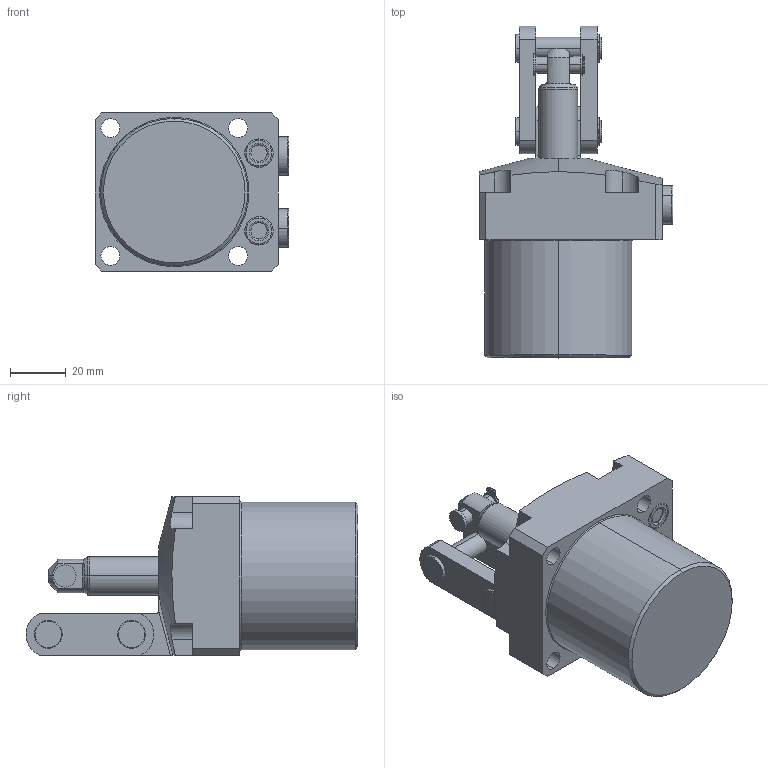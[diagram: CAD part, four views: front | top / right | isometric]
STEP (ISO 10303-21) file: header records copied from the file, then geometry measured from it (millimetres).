
FILE_DESCRIPTION(/* description */ (''),/* implementation_level */ '2;1');
FILE_NAME(/* name */ 'TPC06-R.stp',/* time_stamp */ '2025-01-05T10:30:10+08:00',/* author */ (''),/* organization */ (''),/* preprocessor_version */ 'ST-DEVELOPER v16.7',/* originating_system */ 'SIEMENS PLM Software NX 12.0',/* authorisation */ '');
FILE_SCHEMA (('AUTOMOTIVE_DESIGN { 1 0 10303 214 3 1 1 1 }'));
Length unit declared in the file: millimetre
Products named in the file (5): TPC06-R-01; TPC06-R-02; TPC06-R-03; TPC06-R-04; TPC06-R_stp
Assembly tree (5 placements, depth 2):
  TPC06-R_stp
    TPC06-R-04
    TPC06-R-03
    TPC06-R-02  x2
    TPC06-R-01
Bounding box: 69.8 x 119.5 x 57 mm (x, y, z)
Volume: 200558.6 mm3; surface area: 33717.3 mm2
Topology: 5 solids, 7 shells, 281 faces, 664 edges, 422 vertices
Faces by surface type: cylinder 116, plane 111, torus 34, cone 20
Entity records: 7834 total; most frequent: CARTESIAN_POINT 1466, DIRECTION 1406, ORIENTED_EDGE 1236, EDGE_CURVE 618, AXIS2_PLACEMENT_3D 560, VERTEX_POINT 394, EDGE_LOOP 302, CIRCLE 295
